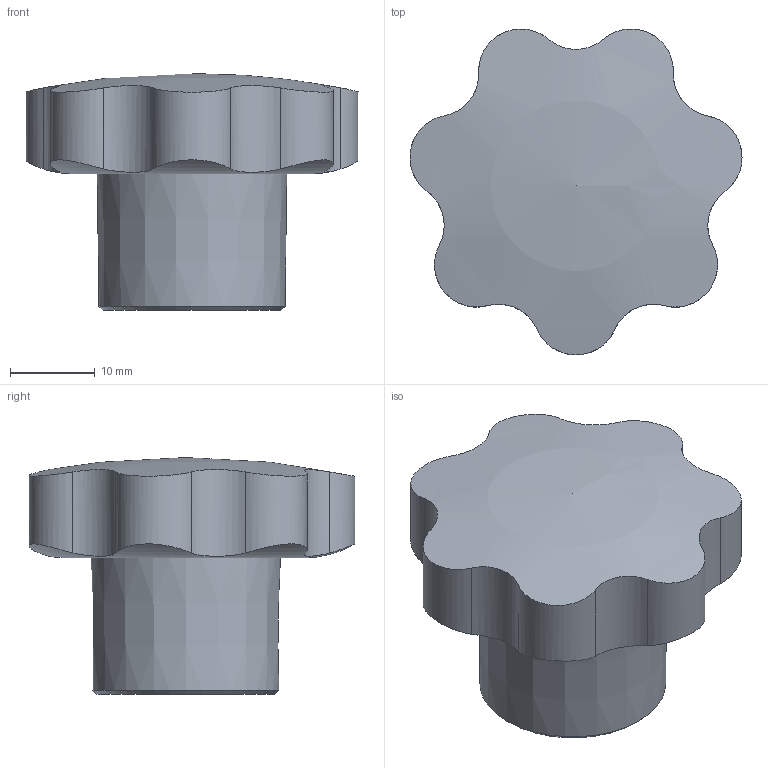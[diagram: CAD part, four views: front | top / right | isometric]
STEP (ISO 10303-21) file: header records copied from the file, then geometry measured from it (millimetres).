
FILE_DESCRIPTION( ('This file contains a STEP AP42 implementation' ,'as created by ZW3D STEP Interface translator.') ,'2;1' );
FILE_NAME( '7.C40.GW.stp' ,'26 817.105630', (''), ('ZWCAD Software Co.'), 'Version 1.0', 'ZW3D to STEP translator', '' );
FILE_SCHEMA(('AP242_MANAGED_MODEL_BASED_3D_ENGINEERING_MIM_LF { 1 0 10303 442 1 1 4 }'));
Length unit declared in the file: millimetre
Products named in the file (1): 0
Bounding box: 39.24 x 38.51 x 28 mm (x, y, z)
Volume: 17067.6 mm3; surface area: 6149.2 mm2
Topology: 2 solids, 2 shells, 28 faces, 66 edges, 43 vertices
Faces by surface type: cylinder 18, plane 5, cone 3, sphere 1, torus 1
Full cylindrical faces by diameter (mm): 5 x2, 11 x2
Entity records: 986 total; most frequent: CARTESIAN_POINT 338, ORIENTED_EDGE 130, DIRECTION 107, EDGE_CURVE 65, AXIS2_PLACEMENT_3D 43, VERTEX_POINT 43, EDGE_LOOP 32, B_SPLINE_CURVE_WITH_KNOTS 30
